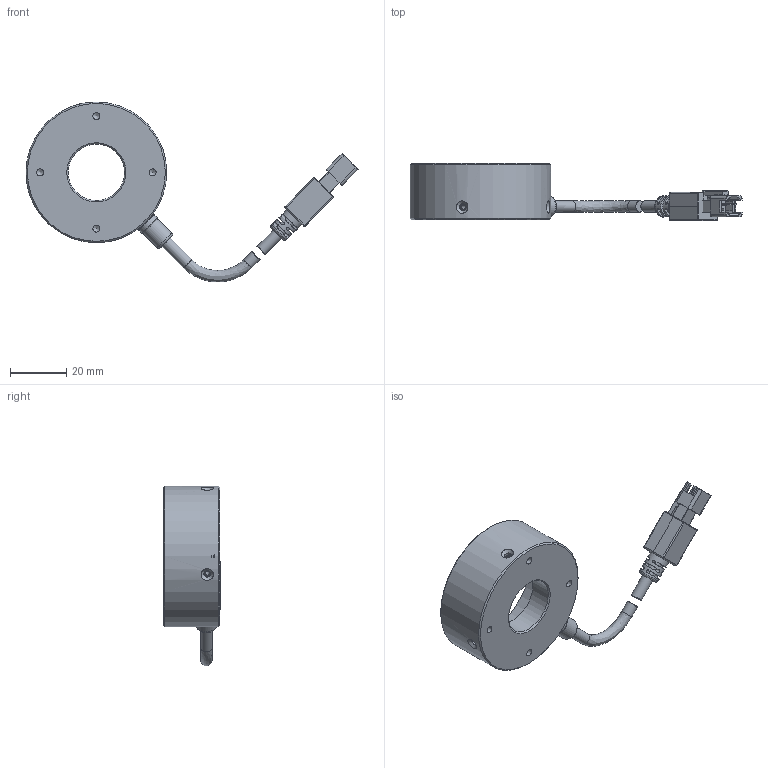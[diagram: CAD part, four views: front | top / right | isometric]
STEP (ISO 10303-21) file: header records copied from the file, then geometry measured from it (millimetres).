
FILE_DESCRIPTION (( 'STEP AP203' ), '1' );
FILE_NAME ('OPT-IRI5045-IR-V2.0.STEP', '2025-02-15T00:10:05', ( '' ), ( '' ), 'SwSTEP 2.0', 'SolidWorks 2016', '' );
FILE_SCHEMA (( 'CONFIG_CONTROL_DESIGN' ));
Length unit declared in the file: millimetre
Products named in the file (1): OPT-IRI5045-IR-V2.0
Bounding box: 117.97 x 20.2 x 63.96 mm (x, y, z)
Volume: 26159.3 mm3; surface area: 13834.7 mm2
Topology: 7 solids, 7 shells, 360 faces, 932 edges, 590 vertices
Faces by surface type: plane 175, cylinder 120, cone 34, bspline 21, torus 6, sphere 4
Full cylindrical faces by diameter (mm): 1.05 x2, 1.1 x6, 1.6 x4, 2.4 x4, 2.5 x4, 3.5 x1, 4.1 x4, 5.8 x1, 7.5 x2, 8 x1, 20 x1, 41.8 x1, 50 x1
Entity records: 11971 total; most frequent: CARTESIAN_POINT 3753, DIRECTION 1638, ORIENTED_EDGE 1636, EDGE_CURVE 818, AXIS2_PLACEMENT_3D 572, VERTEX_POINT 552, LINE 494, VECTOR 494
